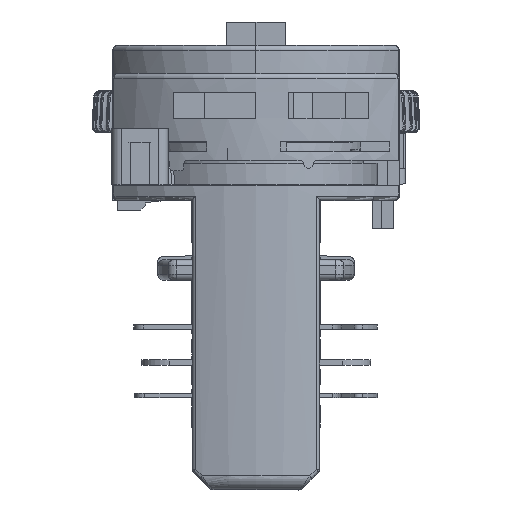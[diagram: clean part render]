
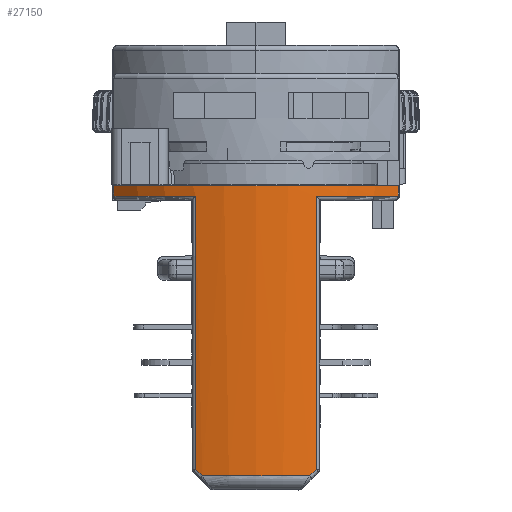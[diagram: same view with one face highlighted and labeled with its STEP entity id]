
A CAD part, left-side view. The second image highlights one B-rep face of the part: STEP entity #27150.
In plain terms, the highlighted cylindrical face has radius 20.221 mm (diameter 40.441 mm), a partial arc.
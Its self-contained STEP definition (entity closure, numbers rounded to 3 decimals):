
#1664=CARTESIAN_POINT('',(-78.679,15.3,10.25));
#1665=DIRECTION('',(0.,0.,-1.));
#1666=DIRECTION('',(-0.661,-0.75,0.));
#1667=AXIS2_PLACEMENT_3D('',#1664,#1665,#1666);
#6972=CARTESIAN_POINT('',(-97.84,21.76,
-20.043));
#6973=CARTESIAN_POINT('',(-97.879,21.645,
-20.155));
#6974=CARTESIAN_POINT('',(-97.956,21.41,
-20.384));
#6975=CARTESIAN_POINT('',(-98.032,21.162,
-20.626));
#6976=CARTESIAN_POINT('',(-98.07,21.035,
-20.75));
#6981=DIRECTION('',(0.,0.,1.));
#6982=VECTOR('',#6981,29.193);
#6983=CARTESIAN_POINT('',(-97.84,21.76,
-20.043));
#6984=LINE('',#6983,#6982);
#6988=CARTESIAN_POINT('',(-78.679,15.3,9.15));
#6989=DIRECTION('',(0.,0.,-1.));
#6990=DIRECTION('',(-0.948,0.319,0.));
#6991=AXIS2_PLACEMENT_3D('',#6988,#6989,#6990);
#6996=DIRECTION('',(0.,0.,1.));
#6997=VECTOR('',#6996,1.1);
#6998=CARTESIAN_POINT('',(-92.043,30.475,9.15));
#6999=LINE('',#6998,#6997);
#7003=DIRECTION('',(0.,0.,-1.));
#7004=VECTOR('',#7003,1.1);
#7005=CARTESIAN_POINT('',(-92.043,0.125,10.25));
#7006=LINE('',#7005,#7004);
#7010=CARTESIAN_POINT('',(-78.679,15.3,9.15));
#7011=DIRECTION('',(0.,0.,-1.));
#7012=DIRECTION('',(-0.661,-0.75,0.));
#7013=AXIS2_PLACEMENT_3D('',#7010,#7011,#7012);
#7018=CARTESIAN_POINT('',(-98.07,9.565,
-20.75));
#7019=CARTESIAN_POINT('',(-98.033,9.443,
-20.63));
#7020=CARTESIAN_POINT('',(-97.959,9.199,
-20.393));
#7021=CARTESIAN_POINT('',(-97.881,8.959,
-20.159));
#7022=CARTESIAN_POINT('',(-97.84,8.84,
-20.043));
#10715=CARTESIAN_POINT('',(-98.07,21.035,
-20.75));
#10737=CARTESIAN_POINT('',(-78.679,15.3,-20.75));
#10738=DIRECTION('',(0.,0.,1.));
#10739=DIRECTION('',(-0.959,0.284,0.));
#10740=AXIS2_PLACEMENT_3D('',#10737,#10738,#10739);
#10753=CARTESIAN_POINT('',(-98.07,9.565,
-20.75));
#12590=DIRECTION('',(0.,0.,1.));
#12591=VECTOR('',#12590,29.193);
#12592=CARTESIAN_POINT('',(-97.84,8.84,
-20.043));
#12593=LINE('',#12592,#12591);
#19533=VERTEX_POINT('',#10753);
#19537=VERTEX_POINT('',#7022);
#19548=CARTESIAN_POINT('',(-92.043,0.125,9.15));
#19549=CARTESIAN_POINT('',(-97.84,8.84,9.15));
#19550=VERTEX_POINT('',#19548);
#19551=VERTEX_POINT('',#19549);
#20825=CARTESIAN_POINT('',(-92.043,0.125,10.25));
#20826=VERTEX_POINT('',#20825);
#21089=VERTEX_POINT('',#10715);
#21091=VERTEX_POINT('',#6972);
#21093=CARTESIAN_POINT('',(-97.84,21.76,9.15));
#21094=VERTEX_POINT('',#21093);
#21095=CARTESIAN_POINT('',(-92.043,30.475,9.15));
#21097=VERTEX_POINT('',#21095);
#22067=CARTESIAN_POINT('',(-92.043,30.475,10.25));
#22068=VERTEX_POINT('',#22067);
#27124=CARTESIAN_POINT('',(-78.679,15.3,22.25));
#27125=DIRECTION('',(0.,0.,1.));
#27126=DIRECTION('',(1.,0.,0.));
#27127=AXIS2_PLACEMENT_3D('',#27124,#27125,#27126);
#27128=CYLINDRICAL_SURFACE('',#27127,20.221);
#27130=ORIENTED_EDGE('',*,*,#27129,.F.);
#27132=ORIENTED_EDGE('',*,*,#27131,.F.);
#27134=ORIENTED_EDGE('',*,*,#27133,.T.);
#27136=ORIENTED_EDGE('',*,*,#27135,.T.);
#27138=ORIENTED_EDGE('',*,*,#27137,.T.);
#27139=ORIENTED_EDGE('',*,*,#23724,.F.);
#27141=ORIENTED_EDGE('',*,*,#27140,.T.);
#27143=ORIENTED_EDGE('',*,*,#27142,.T.);
#27145=ORIENTED_EDGE('',*,*,#27144,.F.);
#27147=ORIENTED_EDGE('',*,*,#27146,.F.);
#27148=EDGE_LOOP('',(#27130,#27132,#27134,#27136,#27138,#27139,#27141,#27143,
#27145,#27147));
#27149=FACE_OUTER_BOUND('',#27148,.F.);
#27150=ADVANCED_FACE('',(#27149),#27128,.T.);
#1668=CIRCLE('',#1667,20.221);
#6977=B_SPLINE_CURVE_WITH_KNOTS('',3,(#6972,#6973,#6974,#6975,#6976),
.UNSPECIFIED.,.F.,.F.,(4,1,4),(0.,0.5,1.),.UNSPECIFIED.);
#6992=CIRCLE('',#6991,20.221);
#7014=CIRCLE('',#7013,20.221);
#7023=B_SPLINE_CURVE_WITH_KNOTS('',3,(#7018,#7019,#7020,#7021,#7022),
.UNSPECIFIED.,.F.,.F.,(4,1,4),(0.,0.5,1.),.UNSPECIFIED.);
#10741=CIRCLE('',#10740,20.221);
#23724=EDGE_CURVE('',#20826,#22068,#1668,.T.);
#27129=EDGE_CURVE('',#21089,#19533,#10741,.T.);
#27131=EDGE_CURVE('',#21091,#21089,#6977,.T.);
#27133=EDGE_CURVE('',#21091,#21094,#6984,.T.);
#27135=EDGE_CURVE('',#21094,#21097,#6992,.T.);
#27137=EDGE_CURVE('',#21097,#22068,#6999,.T.);
#27140=EDGE_CURVE('',#20826,#19550,#7006,.T.);
#27142=EDGE_CURVE('',#19550,#19551,#7014,.T.);
#27144=EDGE_CURVE('',#19537,#19551,#12593,.T.);
#27146=EDGE_CURVE('',#19533,#19537,#7023,.T.);
